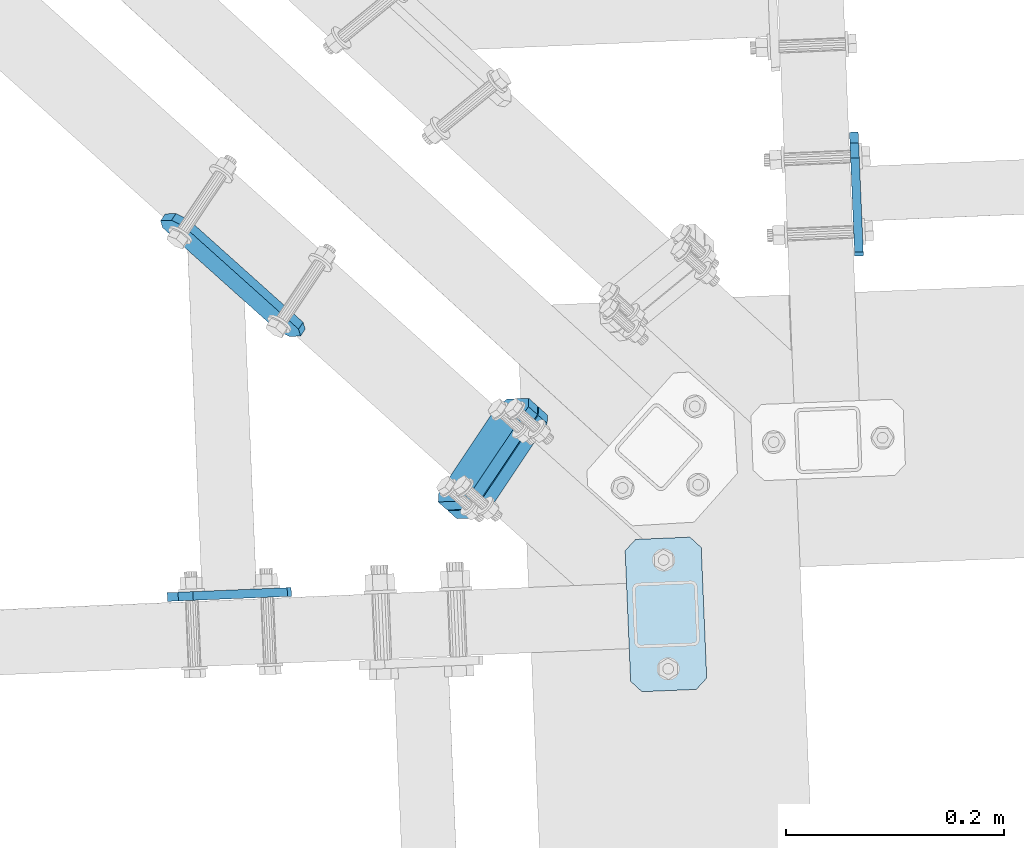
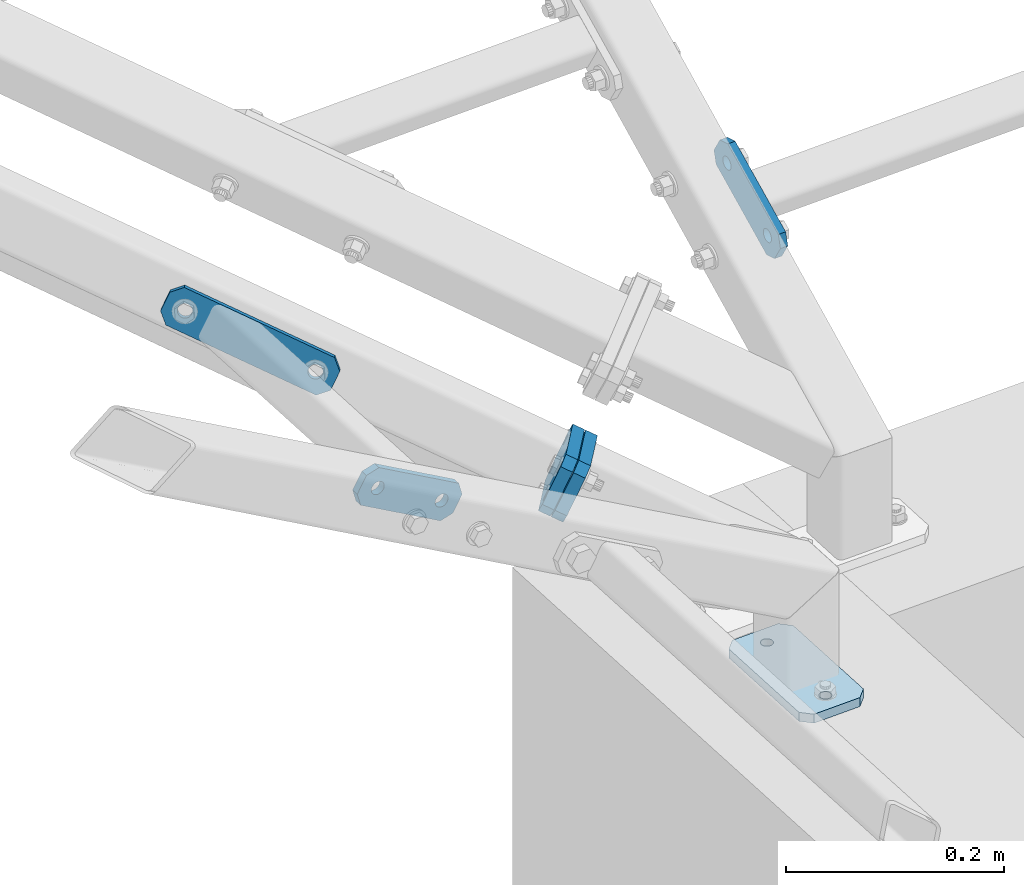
# One storey, part 52 of 288: 6 plates, 40 openings.
"""IFC2X3 building model written with IfcOpenShell, lengths in millimetres."""

import ifcopenshell
import ifcopenshell.guid

model = None  # the IFC model being written
_history = None  # IfcOwnerHistory: only IFC2X3 demands one
_inside = {}  # id of a spatial element -> (the spatial element, [elements in it])
_under = {}  # id of a project, library or spatial element -> (it, [spatial elements below it])
_declared = {}  # id of a project -> (the project, [libraries it declares])
_typed = {}  # id of a type object -> (the type object, [elements of that type])
_made_of = {}  # id of a material, layer set ... -> (it, [elements and type objects made of it])


def new_model(schema):
    """Start an empty IFC model of exactly this schema.

    Asked for "IFC4X3", IfcOpenShell would pick the latest addendum, in which some entities
    have other attributes; the version numbers below select the first issue.
    IFC2X3 requires an IfcOwnerHistory on every rooted entity: one is made here for all.
    """
    global model, _history
    if schema == "IFC4X3":
        model = ifcopenshell.file(schema_version=(4, 3, 0, 0))
    else:
        model = ifcopenshell.file(schema=schema)
    _inside.clear()
    _under.clear()
    _declared.clear()
    _typed.clear()
    _made_of.clear()
    _history = None
    if model.schema == "IFC2X3":
        org = make("IfcOrganization", Name="unknown")
        user = make(
            "IfcPersonAndOrganization",
            ThePerson=make("IfcPerson", FamilyName="unknown"),
            TheOrganization=org,
        )
        app = make(
            "IfcApplication",
            ApplicationDeveloper=org,
            Version="unknown",
            ApplicationFullName="unknown",
            ApplicationIdentifier="unknown",
        )
        _history = make(
            "IfcOwnerHistory",
            OwningUser=user,
            OwningApplication=app,
            ChangeAction="ADDED",
            CreationDate=0,
        )
    return model


def make(cls, **values):
    """One entity of the class cls with the attributes given. An attribute that is None is left unset."""
    return model.create_entity(
        cls, **{name: value for name, value in values.items() if value is not None}
    )


def entity(cls, *values):
    """Any entity or typed value of the class cls, its attributes in the order of the schema. None: left unset."""
    e = model.create_entity(cls)
    for i, value in enumerate(values):
        if value is not None:
            e[i] = value
    return e


def rooted(cls, **values):
    """An entity with a GlobalId (a new one), such as an element, a storey or a relation."""
    return make(cls, GlobalId=ifcopenshell.guid.new(), OwnerHistory=_history, **values)


def si_unit(unit_type, name, prefix=None):
    """IfcSIUnit, for example si_unit("LENGTHUNIT", "METRE", prefix="MILLI")."""
    return make("IfcSIUnit", UnitType=unit_type, Prefix=prefix, Name=name)


def converted_unit(unit_type, name, factor, base, dimensions=None, offset=None):
    """IfcConversionBasedUnit, such as the inch: factor (a typed value) times the base unit."""
    return make(
        "IfcConversionBasedUnit"
        if offset is None
        else "IfcConversionBasedUnitWithOffset",
        ConversionOffset=offset,
        Dimensions=None
        if dimensions is None
        else entity("IfcDimensionalExponents", *dimensions),
        UnitType=unit_type,
        Name=name,
        ConversionFactor=make(
            "IfcMeasureWithUnit", ValueComponent=factor, UnitComponent=base
        ),
    )


def assignment(units):
    """IfcUnitAssignment: the units of a project."""
    return None if units is None else make("IfcUnitAssignment", Units=units)


def point(xyz):
    """IfcCartesianPoint."""
    return None if xyz is None else make("IfcCartesianPoint", Coordinates=xyz)


def direction(xyz):
    """IfcDirection."""
    return None if xyz is None else make("IfcDirection", DirectionRatios=xyz)


def frame(location, z_axis=None, x_axis=None):
    """IfcAxis2Placement3D, a coordinate frame: its origin and axes. An axis left out is left unset."""
    return make(
        "IfcAxis2Placement3D",
        Location=point(location),
        Axis=direction(z_axis),
        RefDirection=direction(x_axis),
    )


def frame_2d(location, x_axis=None):
    """IfcAxis2Placement2D, a coordinate frame in the plane: its origin and x axis."""
    return make(
        "IfcAxis2Placement2D", Location=point(location), RefDirection=direction(x_axis)
    )


def origin():
    """The frame at (0, 0, 0) with its axes left unset."""
    return frame((0.0, 0.0, 0.0))


def origin_with_axes():
    """The frame at (0, 0, 0) with the z axis (0, 0, 1) and the x axis (1, 0, 0) written out."""
    return frame((0.0, 0.0, 0.0), z_axis=(0.0, 0.0, 1.0), x_axis=(1.0, 0.0, 0.0))


def origin_2d_with_axis():
    """The frame at (0, 0) in the plane with the x axis (1, 0) written out."""
    return frame_2d((0.0, 0.0), x_axis=(1.0, 0.0))


def place(relative_to, where):
    """IfcLocalPlacement: puts the frame where relative to a parent placement (None: the world)."""
    return make(
        "IfcLocalPlacement", PlacementRelTo=relative_to, RelativePlacement=where
    )


def context(
    kind, dimensions, precision=None, world=None, true_north=None, identifier=None
):
    """IfcGeometricRepresentationContext, for example the 3D "Model" context."""
    return make(
        "IfcGeometricRepresentationContext",
        ContextIdentifier=identifier,
        ContextType=kind,
        CoordinateSpaceDimension=dimensions,
        Precision=precision,
        WorldCoordinateSystem=world,
        TrueNorth=true_north,
    )


def project(units=None, contexts=None):
    """IfcProject with its units and contexts."""
    return rooted(
        "IfcProject",
        Name="project",
        RepresentationContexts=contexts,
        UnitsInContext=assignment(units),
    )


def spatial(cls, under=None, at=None, **own):
    """A site, building, storey or space (cls), placed at a placement, below another one or the project."""
    s = rooted(cls, ObjectPlacement=at, **own)
    if under is not None:
        _under.setdefault(under.id(), (under, []))[1].append(s)
    return s


def polyline(points):
    """IfcPolyline through the points."""
    return make("IfcPolyline", Points=[point(p) for p in points])


def circle_curve(where, radius):
    """IfcCircle in the frame where."""
    return make("IfcCircle", Position=where, Radius=radius)


def line_curve(start, along, magnitude):
    """IfcLine from a point along a vector."""
    return make(
        "IfcLine",
        Pnt=point(start),
        Dir=make("IfcVector", Orientation=direction(along), Magnitude=magnitude),
    )


def trimmed(basis, trim1, trim2, sense, master):
    """IfcTrimmedCurve: the piece of a basis curve between two trims."""
    return make(
        "IfcTrimmedCurve",
        BasisCurve=basis,
        Trim1=trim1,
        Trim2=trim2,
        SenseAgreement=sense,
        MasterRepresentation=master,
    )


def segment(curve, same_sense, transition):
    """IfcCompositeCurveSegment."""
    return make(
        "IfcCompositeCurveSegment",
        Transition=transition,
        SameSense=same_sense,
        ParentCurve=curve,
    )


def composite_curve(segments, self_intersect=None):
    """IfcCompositeCurve: segments joined end to end."""
    return make("IfcCompositeCurve", Segments=segments, SelfIntersect=self_intersect)


def profile(cls, at=None, kind="AREA", **sizes):
    """A parametric profile (cls). Its sizes go by their IFC names, for example OverallWidth=200.0."""
    return make(cls, ProfileType=kind, Position=at, **sizes)


def circle(**sizes):
    """IfcCircleProfileDef."""
    return profile("IfcCircleProfileDef", **sizes)


def outline(outer, holes=None, kind="AREA"):
    """IfcArbitraryClosedProfileDef: a profile drawn as a closed curve; with holes, ...WithVoids."""
    if holes is None:
        return make("IfcArbitraryClosedProfileDef", ProfileType=kind, OuterCurve=outer)
    return make(
        "IfcArbitraryProfileDefWithVoids",
        ProfileType=kind,
        OuterCurve=outer,
        InnerCurves=holes,
    )


def extrude(swept, where, along, depth):
    """IfcExtrudedAreaSolid: the profile swept, set in the frame where, extruded along a direction by depth."""
    return make(
        "IfcExtrudedAreaSolid",
        SweptArea=swept,
        Position=where,
        ExtrudedDirection=direction(along),
        Depth=depth,
    )


def shape(context_of_items, identifier, shape_type, items):
    """IfcShapeRepresentation: the items that make up one representation, for example the "Body"."""
    return make(
        "IfcShapeRepresentation",
        ContextOfItems=context_of_items,
        RepresentationIdentifier=identifier,
        RepresentationType=shape_type,
        Items=items,
    )


def material(Name=None, Category=None):
    """IfcMaterial."""
    return make("IfcMaterial", Name=Name, Category=Category)


def layer(
    of_material, thickness, ventilated=None, Name=None, Category=None, Priority=None
):
    """IfcMaterialLayer: one layer of a wall or slab, of a material (None: an air gap)."""
    return make(
        "IfcMaterialLayer",
        Material=of_material,
        LayerThickness=thickness,
        IsVentilated=ventilated,
        Name=Name,
        Category=Category,
        Priority=Priority,
    )


def layer_set(layers, Name=None):
    """IfcMaterialLayerSet."""
    return make("IfcMaterialLayerSet", MaterialLayers=layers, LayerSetName=Name)


def made_of(thing, what):
    """Note that an element or type object is made of a material, layer set ...; save() writes the relation."""
    if what is not None:
        _made_of.setdefault(what.id(), (what, []))[1].append(thing)
    return thing


def element(
    cls,
    number,
    at=None,
    inside=None,
    cuts=None,
    type_object=None,
    material=None,
    context=None,
    identifier="Body",
    shape_type=None,
    held_by="IfcProductDefinitionShape",
    body=None,
    shapes=None,
    **own,
):
    """One element of the class cls, such as IfcWall. Its Tag is "e" and its number.

    at: its placement. inside: the storey or other place that contains it. cuts: it is an
    opening in that element (IfcRelVoidsElement). A single representation is given by context,
    identifier, shape_type and body (its items); several are given by shapes. held_by: the class
    of the entity that holds the representations. save() writes the other relations.
    """
    e = rooted(cls, Tag="e%d" % number, ObjectPlacement=at, **own)
    if body is not None:
        shapes = [shape(context, identifier, shape_type, body)]
    if shapes is not None:
        e.Representation = make(held_by, Representations=shapes)
    if inside is not None:
        _inside.setdefault(inside.id(), (inside, []))[1].append(e)
    if cuts is not None:
        rooted(
            "IfcRelVoidsElement", RelatingBuildingElement=cuts, RelatedOpeningElement=e
        )
    if type_object is not None:
        _typed.setdefault(type_object.id(), (type_object, []))[1].append(e)
    return made_of(e, material)


def aggregate(whole, parts):
    """IfcRelAggregates: a whole, such as a stair, and the parts it consists of."""
    return rooted("IfcRelAggregates", RelatingObject=whole, RelatedObjects=parts)


def save(model, path):
    """Write the relations noted so far, then the file.

    IfcRelAggregates (storeys below a building ...), IfcRelContainedInSpatialStructure (elements
    in a storey), IfcRelDefinesByType, IfcRelAssociatesMaterial and IfcRelDeclares: one each for
    every whole, place, type object, material and project.
    """
    for whole, parts in _under.values():
        aggregate(whole, parts)
    for where, things in _inside.values():
        rooted(
            "IfcRelContainedInSpatialStructure",
            RelatedElements=things,
            RelatingStructure=where,
        )
    for kind, things in _typed.values():
        rooted("IfcRelDefinesByType", RelatedObjects=things, RelatingType=kind)
    for what, things in _made_of.values():
        rooted("IfcRelAssociatesMaterial", RelatedObjects=things, RelatingMaterial=what)
    for by, libraries in _declared.values():
        rooted("IfcRelDeclares", RelatingContext=by, RelatedDefinitions=libraries)
    model.write(path)


model = new_model("IFC2X3")

# Units and contexts
model_context = context("Model", 3, precision=1e-09, world=origin_with_axes())
ifc_project = project(units=[si_unit("LENGTHUNIT", "METRE", prefix="MILLI"), si_unit("AREAUNIT", "SQUARE_METRE"), si_unit("VOLUMEUNIT", "CUBIC_METRE"), converted_unit("PLANEANGLEUNIT", "DEGREE", entity("IfcPlaneAngleMeasure", 0.01745329), si_unit("PLANEANGLEUNIT", "RADIAN"), dimensions=[0, 0, 0, 0, 0, 0, 0])], contexts=[model_context])

# Site, building, storey
site_placement = place(None, origin_with_axes())
site = spatial("IfcSite", under=ifc_project, at=site_placement, Name="Remont ?wietlik?w nad MC w NCPP w Opolu", CompositionType="ELEMENT")
building_placement = place(site_placement, origin_with_axes())
building = spatial("IfcBuilding", under=site, at=building_placement, Name="Konstrukcja 1", CompositionType="ELEMENT")
storey_placement = place(building_placement, origin_with_axes())
storey = spatial("IfcBuildingStorey", under=building, at=storey_placement, Name="Default Storey", CompositionType="ELEMENT", Elevation=0.0)

# Plate, openings
ifc_material = material(Name="S235")
ifc_layer_1 = layer(ifc_material, 8.0)
ifc_layer_set_1 = layer_set([ifc_layer_1], Name="S235")
plate_1_placement = place(None, frame((1507.373113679, 13764.887067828, 194.213699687), z_axis=(-0.999102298, -0.042361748, 0.000284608), x_axis=(0.021561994, -0.502733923, 0.864172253)))
plate_1 = element("IfcPlate", 1, at=plate_1_placement, inside=storey, material=ifc_layer_set_1, Name="-", ObjectType="-", context=model_context, shape_type="SweptSolid", body=[
    extrude(outline(polyline([(0.0, 0.0), (40.0, 0.0), (40.0, 120.0), (0.0, 120.0), (0.0, 0.0)])), origin_with_axes(), (0.0, 0.0, 1.0), 8.0),
])
opening_1_placement = place(plate_1_placement, frame((0.0, 0.0, -0.01), z_axis=(0.0, 0.0, 1.0), x_axis=(1.0, 0.0, 0.0)))
element("IfcOpeningElement", 2, at=opening_1_placement, cuts=plate_1, ObjectType="Opening", context=model_context, shape_type="SweptSolid", body=[
    extrude(outline(composite_curve([segment(trimmed(line_curve((0.0, 0.0), (1.0, 0.0), 10.0), [point((0.0, 0.0))], [point((10.0, 0.0))], True, "CARTESIAN"), True, "CONTINUOUS"), segment(trimmed(circle_curve(frame_2d((10.0, 10.0), x_axis=(-1.0, 0.0)), 10.0), [point((10.0, 0.0))], [point((0.0, 10.0))], False, "CARTESIAN"), True, "CONTINUOUS"), segment(trimmed(line_curve((0.0, 10.0), (0.0, -1.0), 10.0), [point((0.0, 10.0))], [point((0.0, 0.0))], True, "CARTESIAN"), True, "CONTINUOUS")], self_intersect=False)), origin(), (0.0, 0.0, 1.0), 8.02),
])
opening_2_placement = place(plate_1_placement, frame((0.0, 0.0, -0.01), z_axis=(0.0, 0.0, 1.0), x_axis=(1.0, 0.0, 0.0)))
element("IfcOpeningElement", 3, at=opening_2_placement, cuts=plate_1, ObjectType="Opening", context=model_context, shape_type="SweptSolid", body=[
    extrude(outline(composite_curve([segment(trimmed(line_curve((40.0, 0.0), (0.0, 1.0), 10.0), [point((40.0, 0.0))], [point((40.0, 10.0))], True, "CARTESIAN"), True, "CONTINUOUS"), segment(trimmed(circle_curve(frame_2d((30.0, 10.0), x_axis=(-1.0, 0.0)), 10.0), [point((40.0, 10.0))], [point((30.0, 0.0))], False, "CARTESIAN"), True, "CONTINUOUS"), segment(trimmed(line_curve((30.0, 0.0), (1.0, 0.0), 10.0), [point((30.0, 0.0))], [point((40.0, 0.0))], True, "CARTESIAN"), True, "CONTINUOUS")], self_intersect=False)), origin(), (0.0, 0.0, 1.0), 8.02),
])
opening_3_placement = place(plate_1_placement, frame((0.0, 0.0, -0.01), z_axis=(0.0, 0.0, 1.0), x_axis=(1.0, 0.0, 0.0)))
element("IfcOpeningElement", 4, at=opening_3_placement, cuts=plate_1, ObjectType="Opening", context=model_context, shape_type="SweptSolid", body=[
    extrude(outline(composite_curve([segment(trimmed(line_curve((40.0, 120.0), (-1.0, 0.0), 10.0), [point((40.0, 120.0))], [point((30.0, 120.0))], True, "CARTESIAN"), True, "CONTINUOUS"), segment(trimmed(circle_curve(frame_2d((30.0, 110.0), x_axis=(-1.0, 0.0)), 10.0), [point((30.0, 120.0))], [point((40.0, 110.0))], False, "CARTESIAN"), True, "CONTINUOUS"), segment(trimmed(line_curve((40.0, 110.0), (0.0, 1.0), 10.0), [point((40.0, 110.0))], [point((40.0, 120.0))], True, "CARTESIAN"), True, "CONTINUOUS")], self_intersect=False)), origin(), (0.0, 0.0, 1.0), 8.02),
])
opening_4_placement = place(plate_1_placement, frame((0.0, 0.0, -0.01), z_axis=(0.0, 0.0, 1.0), x_axis=(1.0, 0.0, 0.0)))
element("IfcOpeningElement", 5, at=opening_4_placement, cuts=plate_1, ObjectType="Opening", context=model_context, shape_type="SweptSolid", body=[
    extrude(outline(composite_curve([segment(trimmed(line_curve((0.0, 120.0), (0.0, -1.0), 10.0), [point((0.0, 120.0))], [point((0.0, 110.0))], True, "CARTESIAN"), True, "CONTINUOUS"), segment(trimmed(circle_curve(frame_2d((10.0, 110.0), x_axis=(-1.0, 0.0)), 10.0), [point((0.0, 110.0))], [point((10.0, 120.0))], False, "CARTESIAN"), True, "CONTINUOUS"), segment(trimmed(line_curve((10.0, 120.0), (-1.0, 0.0), 10.0), [point((10.0, 120.0))], [point((0.0, 120.0))], True, "CARTESIAN"), True, "CONTINUOUS")], self_intersect=False)), origin(), (0.0, 0.0, 1.0), 8.02),
])
opening_5_placement = place(plate_1_placement, frame((12.999, 100.0, 8.5), z_axis=(0.0, 0.0, 1.0), x_axis=(1.0, 0.0, 0.0)))
element("IfcOpeningElement", 6, at=opening_5_placement, cuts=plate_1, ObjectType="Opening", context=model_context, shape_type="SweptSolid", body=[
    extrude(circle(Radius=7.001, at=frame_2d((7.001, 0.0), x_axis=(1.0, 0.0))), origin(), (0.0, 0.0, -1.0), 9.0),
])
opening_6_placement = place(plate_1_placement, frame((12.999, 20.0, 8.5), z_axis=(0.0, 0.0, 1.0), x_axis=(1.0, 0.0, 0.0)))
element("IfcOpeningElement", 7, at=opening_6_placement, cuts=plate_1, ObjectType="Opening", context=model_context, shape_type="SweptSolid", body=[
    extrude(circle(Radius=7.001, at=frame_2d((7.001, 0.0), x_axis=(1.0, 0.0))), origin(), (0.0, 0.0, -1.0), 9.0),
])

plate_2_placement = place(None, frame((863.978979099, 13432.139766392, 349.770319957), z_axis=(-0.041662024, 0.999131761, 1.7472e-05), x_axis=(0.499566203, 0.020815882, 0.866025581)))
plate_2 = element("IfcPlate", 8, at=plate_2_placement, inside=storey, material=ifc_layer_set_1, Name="-", ObjectType="-", context=model_context, shape_type="SweptSolid", body=[
    extrude(outline(polyline([(0.0, 0.0), (40.0, 0.0), (40.0, 120.0), (0.0, 120.0), (0.0, 0.0)])), origin_with_axes(), (0.0, 0.0, 1.0), 8.0),
])
opening_7_placement = place(plate_2_placement, frame((0.0, 0.0, -0.01), z_axis=(0.0, 0.0, 1.0), x_axis=(1.0, 0.0, 0.0)))
element("IfcOpeningElement", 9, at=opening_7_placement, cuts=plate_2, ObjectType="Opening", context=model_context, shape_type="SweptSolid", body=[
    extrude(outline(composite_curve([segment(trimmed(line_curve((40.0, 0.0), (0.0, 1.0), 10.0), [point((40.0, 0.0))], [point((40.0, 10.0))], True, "CARTESIAN"), True, "CONTINUOUS"), segment(trimmed(circle_curve(frame_2d((30.0, 10.0), x_axis=(-1.0, 0.0)), 10.0), [point((40.0, 10.0))], [point((30.0, 0.0))], False, "CARTESIAN"), True, "CONTINUOUS"), segment(trimmed(line_curve((30.0, 0.0), (1.0, 0.0), 10.0), [point((30.0, 0.0))], [point((40.0, 0.0))], True, "CARTESIAN"), True, "CONTINUOUS")], self_intersect=False)), origin(), (0.0, 0.0, 1.0), 8.02),
])
opening_8_placement = place(plate_2_placement, frame((0.0, 0.0, -0.01), z_axis=(0.0, 0.0, 1.0), x_axis=(1.0, 0.0, 0.0)))
element("IfcOpeningElement", 10, at=opening_8_placement, cuts=plate_2, ObjectType="Opening", context=model_context, shape_type="SweptSolid", body=[
    extrude(outline(composite_curve([segment(trimmed(line_curve((0.0, 0.0), (1.0, 0.0), 10.0), [point((0.0, 0.0))], [point((10.0, 0.0))], True, "CARTESIAN"), True, "CONTINUOUS"), segment(trimmed(circle_curve(frame_2d((10.0, 10.0), x_axis=(-1.0, 0.0)), 10.0), [point((10.0, 0.0))], [point((0.0, 10.0))], False, "CARTESIAN"), True, "CONTINUOUS"), segment(trimmed(line_curve((0.0, 10.0), (0.0, -1.0), 10.0), [point((0.0, 10.0))], [point((0.0, 0.0))], True, "CARTESIAN"), True, "CONTINUOUS")], self_intersect=False)), origin(), (0.0, 0.0, 1.0), 8.02),
])
opening_9_placement = place(plate_2_placement, frame((0.0, 0.0, -0.01), z_axis=(0.0, 0.0, 1.0), x_axis=(1.0, 0.0, 0.0)))
element("IfcOpeningElement", 11, at=opening_9_placement, cuts=plate_2, ObjectType="Opening", context=model_context, shape_type="SweptSolid", body=[
    extrude(outline(composite_curve([segment(trimmed(line_curve((40.0, 120.0), (-1.0, 0.0), 10.0), [point((40.0, 120.0))], [point((30.0, 120.0))], True, "CARTESIAN"), True, "CONTINUOUS"), segment(trimmed(circle_curve(frame_2d((30.0, 110.0), x_axis=(-1.0, 0.0)), 10.0), [point((30.0, 120.0))], [point((40.0, 110.0))], False, "CARTESIAN"), True, "CONTINUOUS"), segment(trimmed(line_curve((40.0, 110.0), (0.0, 1.0), 10.0), [point((40.0, 110.0))], [point((40.0, 120.0))], True, "CARTESIAN"), True, "CONTINUOUS")], self_intersect=False)), origin(), (0.0, 0.0, 1.0), 8.02),
])
opening_10_placement = place(plate_2_placement, frame((0.0, 0.0, -0.01), z_axis=(0.0, 0.0, 1.0), x_axis=(1.0, 0.0, 0.0)))
element("IfcOpeningElement", 12, at=opening_10_placement, cuts=plate_2, ObjectType="Opening", context=model_context, shape_type="SweptSolid", body=[
    extrude(outline(composite_curve([segment(trimmed(line_curve((0.0, 120.0), (0.0, -1.0), 10.0), [point((0.0, 120.0))], [point((0.0, 110.0))], True, "CARTESIAN"), True, "CONTINUOUS"), segment(trimmed(circle_curve(frame_2d((10.0, 110.0), x_axis=(-1.0, 0.0)), 10.0), [point((0.0, 110.0))], [point((10.0, 120.0))], False, "CARTESIAN"), True, "CONTINUOUS"), segment(trimmed(line_curve((10.0, 120.0), (-1.0, 0.0), 10.0), [point((10.0, 120.0))], [point((0.0, 120.0))], True, "CARTESIAN"), True, "CONTINUOUS")], self_intersect=False)), origin(), (0.0, 0.0, 1.0), 8.02),
])
opening_11_placement = place(plate_2_placement, frame((19.99842578, 27.001033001, 8.499903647), z_axis=(-2.0054e-05, 4.2e-07, 1.0), x_axis=(1.0, 0.0, 2.0054e-05)))
element("IfcOpeningElement", 13, at=opening_11_placement, cuts=plate_2, ObjectType="Opening", context=model_context, shape_type="SweptSolid", body=[
    extrude(circle(Radius=7.001, at=frame_2d((-4e-09, -7.001), x_axis=(1.0, 0.0))), origin(), (0.0, 0.0, -1.0), 9.000033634),
])
opening_12_placement = place(plate_2_placement, frame((19.998425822, 107.001033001, 8.499870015), z_axis=(-2.0054e-05, 4.2e-07, 1.0), x_axis=(1.0, 0.0, 2.0054e-05)))
element("IfcOpeningElement", 14, at=opening_12_placement, cuts=plate_2, ObjectType="Opening", context=model_context, shape_type="SweptSolid", body=[
    extrude(circle(Radius=7.001, at=frame_2d((-4e-09, -7.001), x_axis=(1.0, 0.0))), origin(), (0.0, 0.0, -1.0), 9.000033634),
])

ifc_layer_2 = layer(ifc_material, 10.0)
ifc_layer_set_2 = layer_set([ifc_layer_2], Name="S235")
plate_3_placement = place(None, frame((1288.768504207, 13488.889139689, 10.000000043), z_axis=(0.0, 0.0, -1.0), x_axis=(0.999131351, 0.041671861, 0.0)))
plate_3 = element("IfcPlate", 15, at=plate_3_placement, inside=storey, material=ifc_layer_set_2, Name="Baseplate", ObjectType="Baseplate", context=model_context, shape_type="SweptSolid", body=[
    extrude(outline(polyline([(0.0, 0.0), (70.0, 0.0), (70.0, 140.0), (0.0, 140.0), (0.0, 0.0)])), origin_with_axes(), (0.0, 0.0, 1.0), 10.0),
])
opening_13_placement = place(plate_3_placement, frame((0.0, 0.0, -0.01), z_axis=(0.0, 0.0, 1.0), x_axis=(1.0, 0.0, 0.0)))
element("IfcOpeningElement", 16, at=opening_13_placement, cuts=plate_3, ObjectType="Opening", context=model_context, shape_type="SweptSolid", body=[
    extrude(outline(composite_curve([segment(trimmed(line_curve((0.0, 140.0), (0.0, -1.0), 10.0), [point((0.0, 140.0))], [point((0.0, 130.0))], True, "CARTESIAN"), True, "CONTINUOUS"), segment(trimmed(circle_curve(frame_2d((10.0, 130.0), x_axis=(-1.0, 0.0)), 10.0), [point((0.0, 130.0))], [point((10.0, 140.0))], False, "CARTESIAN"), True, "CONTINUOUS"), segment(trimmed(line_curve((10.0, 140.0), (-1.0, 0.0), 10.0), [point((10.0, 140.0))], [point((0.0, 140.0))], True, "CARTESIAN"), True, "CONTINUOUS")], self_intersect=False)), origin(), (0.0, 0.0, 1.0), 10.02),
])
opening_14_placement = place(plate_3_placement, frame((0.0, 0.0, -0.01), z_axis=(0.0, 0.0, 1.0), x_axis=(1.0, 0.0, 0.0)))
element("IfcOpeningElement", 17, at=opening_14_placement, cuts=plate_3, ObjectType="Opening", context=model_context, shape_type="SweptSolid", body=[
    extrude(outline(composite_curve([segment(trimmed(line_curve((70.0, 140.0), (-1.0, 0.0), 10.0), [point((70.0, 140.0))], [point((60.0, 140.0))], True, "CARTESIAN"), True, "CONTINUOUS"), segment(trimmed(circle_curve(frame_2d((60.0, 130.0), x_axis=(-1.0, 0.0)), 10.0), [point((60.0, 140.0))], [point((70.0, 130.0))], False, "CARTESIAN"), True, "CONTINUOUS"), segment(trimmed(line_curve((70.0, 130.0), (0.0, 1.0), 10.0), [point((70.0, 130.0))], [point((70.0, 140.0))], True, "CARTESIAN"), True, "CONTINUOUS")], self_intersect=False)), origin(), (0.0, 0.0, 1.0), 10.02),
])
opening_15_placement = place(plate_3_placement, frame((0.0, 0.0, -0.01), z_axis=(0.0, 0.0, 1.0), x_axis=(1.0, 0.0, 0.0)))
element("IfcOpeningElement", 18, at=opening_15_placement, cuts=plate_3, ObjectType="Opening", context=model_context, shape_type="SweptSolid", body=[
    extrude(outline(composite_curve([segment(trimmed(line_curve((0.0, 0.0), (1.0, 0.0), 10.0), [point((0.0, 0.0))], [point((10.0, 0.0))], True, "CARTESIAN"), True, "CONTINUOUS"), segment(trimmed(circle_curve(frame_2d((10.0, 10.0), x_axis=(-1.0, 0.0)), 10.0), [point((10.0, 0.0))], [point((0.0, 10.0))], False, "CARTESIAN"), True, "CONTINUOUS"), segment(trimmed(line_curve((0.0, 10.0), (0.0, -1.0), 10.0), [point((0.0, 10.0))], [point((0.0, 0.0))], True, "CARTESIAN"), True, "CONTINUOUS")], self_intersect=False)), origin(), (0.0, 0.0, 1.0), 10.02),
])
opening_16_placement = place(plate_3_placement, frame((0.0, 0.0, -0.01), z_axis=(0.0, 0.0, 1.0), x_axis=(1.0, 0.0, 0.0)))
element("IfcOpeningElement", 19, at=opening_16_placement, cuts=plate_3, ObjectType="Opening", context=model_context, shape_type="SweptSolid", body=[
    extrude(outline(composite_curve([segment(trimmed(line_curve((70.0, 0.0), (0.0, 1.0), 10.0), [point((70.0, 0.0))], [point((70.0, 10.0))], True, "CARTESIAN"), True, "CONTINUOUS"), segment(trimmed(circle_curve(frame_2d((60.0, 10.0), x_axis=(-1.0, 0.0)), 10.0), [point((70.0, 10.0))], [point((60.0, 0.0))], False, "CARTESIAN"), True, "CONTINUOUS"), segment(trimmed(line_curve((60.0, 0.0), (1.0, 0.0), 10.0), [point((60.0, 0.0))], [point((70.0, 0.0))], True, "CARTESIAN"), True, "CONTINUOUS")], self_intersect=False)), origin(), (0.0, 0.0, 1.0), 10.02),
])
opening_17_placement = place(plate_3_placement, frame((35.0, 20.0, 10.5), z_axis=(0.0, 0.0, -1.0), x_axis=(1.0, 0.0, 0.0)))
element("IfcOpeningElement", 20, at=opening_17_placement, cuts=plate_3, ObjectType="Opening", context=model_context, shape_type="SweptSolid", body=[
    extrude(circle(Radius=6.001, at=origin_2d_with_axis()), origin(), (0.0, 0.0, 1.0), 11.0),
])
opening_18_placement = place(plate_3_placement, frame((35.0, 120.0, 10.5), z_axis=(0.0, 0.0, -1.0), x_axis=(1.0, 0.0, 0.0)))
element("IfcOpeningElement", 21, at=opening_18_placement, cuts=plate_3, ObjectType="Opening", context=model_context, shape_type="SweptSolid", body=[
    extrude(circle(Radius=6.001, at=origin_2d_with_axis()), origin(), (0.0, 0.0, 1.0), 11.0),
])

ifc_layer_3 = layer(ifc_material, 12.0)
ifc_layer_set_3 = layer_set([ifc_layer_3], Name="S235")
plate_4_placement = place(None, frame((1151.470383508, 13516.68097276, 243.04759527), z_axis=(0.688159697, -0.616779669, -0.382124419), x_axis=(-0.499565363, -0.020836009, -0.866025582)))
plate_4 = element("IfcPlate", 22, at=plate_4_placement, inside=storey, material=ifc_layer_set_3, Name="Endplate#1", ObjectType="Endplate#1", context=model_context, shape_type="SweptSolid", body=[
    extrude(outline(polyline([(0.0, 0.0), (60.0, 0.0), (60.0, 120.0), (0.0, 120.0), (0.0, 0.0)])), origin_with_axes(), (0.0, 0.0, 1.0), 12.0),
])
opening_19_placement = place(plate_4_placement, frame((15.0, 60.0, 12.5), z_axis=(0.0, 0.0, -1.0), x_axis=(1.0, 0.0, 0.0)))
element("IfcOpeningElement", 23, at=opening_19_placement, cuts=plate_4, ObjectType="Opening", context=model_context, shape_type="SweptSolid", body=[
    extrude(circle(Radius=6.001, at=frame_2d((0.0, 45.0), x_axis=(1.0, 0.0))), origin(), (0.0, 0.0, 1.0), 13.0),
])
opening_20_placement = place(plate_4_placement, frame((15.0, 60.0, 12.5), z_axis=(0.0, 0.0, -1.0), x_axis=(1.0, 0.0, 0.0)))
element("IfcOpeningElement", 24, at=opening_20_placement, cuts=plate_4, ObjectType="Opening", context=model_context, shape_type="SweptSolid", body=[
    extrude(circle(Radius=6.001, at=frame_2d((0.0, -45.0), x_axis=(1.0, 0.0))), origin(), (0.0, 0.0, 1.0), 13.0),
])
opening_21_placement = place(plate_4_placement, frame((45.0, 60.0, 12.5), z_axis=(0.0, 0.0, -1.0), x_axis=(1.0, 0.0, 0.0)))
element("IfcOpeningElement", 25, at=opening_21_placement, cuts=plate_4, ObjectType="Opening", context=model_context, shape_type="SweptSolid", body=[
    extrude(circle(Radius=6.001, at=frame_2d((0.0, 45.0), x_axis=(1.0, 0.0))), origin(), (0.0, 0.0, 1.0), 13.0),
])
opening_22_placement = place(plate_4_placement, frame((45.0, 60.0, 12.5), z_axis=(0.0, 0.0, -1.0), x_axis=(1.0, 0.0, 0.0)))
element("IfcOpeningElement", 26, at=opening_22_placement, cuts=plate_4, ObjectType="Opening", context=model_context, shape_type="SweptSolid", body=[
    extrude(circle(Radius=6.001, at=frame_2d((0.0, -45.0), x_axis=(1.0, 0.0))), origin(), (0.0, 0.0, 1.0), 13.0),
])
opening_23_placement = place(plate_4_placement, frame((0.0, 0.0, -0.01), z_axis=(0.0, 0.0, 1.0), x_axis=(1.0, 0.0, 0.0)))
element("IfcOpeningElement", 27, at=opening_23_placement, cuts=plate_4, ObjectType="Opening", context=model_context, shape_type="SweptSolid", body=[
    extrude(outline(composite_curve([segment(trimmed(line_curve((0.0, 120.0), (0.0, -1.0), 10.0), [point((0.0, 120.0))], [point((0.0, 110.0))], True, "CARTESIAN"), True, "CONTINUOUS"), segment(trimmed(circle_curve(frame_2d((10.0, 110.0), x_axis=(-1.0, 0.0)), 10.0), [point((0.0, 110.0))], [point((10.0, 120.0))], False, "CARTESIAN"), True, "CONTINUOUS"), segment(trimmed(line_curve((10.0, 120.0), (-1.0, 0.0), 10.0), [point((10.0, 120.0))], [point((0.0, 120.0))], True, "CARTESIAN"), True, "CONTINUOUS")], self_intersect=False)), origin(), (0.0, 0.0, 1.0), 12.02),
])
opening_24_placement = place(plate_4_placement, frame((0.0, 0.0, -0.01), z_axis=(0.0, 0.0, 1.0), x_axis=(1.0, 0.0, 0.0)))
element("IfcOpeningElement", 28, at=opening_24_placement, cuts=plate_4, ObjectType="Opening", context=model_context, shape_type="SweptSolid", body=[
    extrude(outline(composite_curve([segment(trimmed(line_curve((0.0, 0.0), (1.0, 0.0), 10.0), [point((0.0, 0.0))], [point((10.0, 0.0))], True, "CARTESIAN"), True, "CONTINUOUS"), segment(trimmed(circle_curve(frame_2d((10.0, 10.0), x_axis=(-1.0, 0.0)), 10.0), [point((10.0, 0.0))], [point((0.0, 10.0))], False, "CARTESIAN"), True, "CONTINUOUS"), segment(trimmed(line_curve((0.0, 10.0), (0.0, -1.0), 10.0), [point((0.0, 10.0))], [point((0.0, 0.0))], True, "CARTESIAN"), True, "CONTINUOUS")], self_intersect=False)), origin(), (0.0, 0.0, 1.0), 12.02),
])
opening_25_placement = place(plate_4_placement, frame((0.0, 0.0, -0.01), z_axis=(0.0, 0.0, 1.0), x_axis=(1.0, 0.0, 0.0)))
element("IfcOpeningElement", 29, at=opening_25_placement, cuts=plate_4, ObjectType="Opening", context=model_context, shape_type="SweptSolid", body=[
    extrude(outline(composite_curve([segment(trimmed(line_curve((60.0, 0.0), (0.0, 1.0), 10.0), [point((60.0, 0.0))], [point((60.0, 10.0))], True, "CARTESIAN"), True, "CONTINUOUS"), segment(trimmed(circle_curve(frame_2d((50.0, 10.0), x_axis=(-1.0, 0.0)), 10.0), [point((60.0, 10.0))], [point((50.0, 0.0))], False, "CARTESIAN"), True, "CONTINUOUS"), segment(trimmed(line_curve((50.0, 0.0), (1.0, 0.0), 10.0), [point((50.0, 0.0))], [point((60.0, 0.0))], True, "CARTESIAN"), True, "CONTINUOUS")], self_intersect=False)), origin(), (0.0, 0.0, 1.0), 12.02),
])
opening_26_placement = place(plate_4_placement, frame((0.0, 0.0, -0.01), z_axis=(0.0, 0.0, 1.0), x_axis=(1.0, 0.0, 0.0)))
element("IfcOpeningElement", 30, at=opening_26_placement, cuts=plate_4, ObjectType="Opening", context=model_context, shape_type="SweptSolid", body=[
    extrude(outline(composite_curve([segment(trimmed(line_curve((60.0, 120.0), (-1.0, 0.0), 10.0), [point((60.0, 120.0))], [point((50.0, 120.0))], True, "CARTESIAN"), True, "CONTINUOUS"), segment(trimmed(circle_curve(frame_2d((50.0, 110.0), x_axis=(-1.0, 0.0)), 10.0), [point((50.0, 120.0))], [point((60.0, 110.0))], False, "CARTESIAN"), True, "CONTINUOUS"), segment(trimmed(line_curve((60.0, 110.0), (0.0, 1.0), 10.0), [point((60.0, 110.0))], [point((60.0, 120.0))], True, "CARTESIAN"), True, "CONTINUOUS")], self_intersect=False)), origin(), (0.0, 0.0, 1.0), 12.02),
])

plate_5_placement = place(None, frame((1142.524307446, 13524.699108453, 248.015212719), z_axis=(0.688159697, -0.616779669, -0.382124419), x_axis=(-0.499565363, -0.020836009, -0.866025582)))
plate_5 = element("IfcPlate", 31, at=plate_5_placement, inside=storey, material=ifc_layer_set_3, Name="Endplate#2", ObjectType="Endplate#2", context=model_context, shape_type="SweptSolid", body=[
    extrude(outline(polyline([(0.0, 0.0), (60.0, 0.0), (60.0, 120.0), (0.0, 120.0), (0.0, 0.0)])), origin_with_axes(), (0.0, 0.0, 1.0), 12.0),
])
opening_27_placement = place(plate_5_placement, frame((45.0, 60.0, 12.5), z_axis=(0.0, 0.0, -1.0), x_axis=(1.0, 0.0, 0.0)))
element("IfcOpeningElement", 32, at=opening_27_placement, cuts=plate_5, ObjectType="Opening", context=model_context, shape_type="SweptSolid", body=[
    extrude(circle(Radius=6.001, at=frame_2d((0.0, 45.0), x_axis=(1.0, 0.0))), origin(), (0.0, 0.0, 1.0), 13.0),
])
opening_28_placement = place(plate_5_placement, frame((45.0, 60.0, 12.5), z_axis=(0.0, 0.0, -1.0), x_axis=(1.0, 0.0, 0.0)))
element("IfcOpeningElement", 33, at=opening_28_placement, cuts=plate_5, ObjectType="Opening", context=model_context, shape_type="SweptSolid", body=[
    extrude(circle(Radius=6.001, at=frame_2d((0.0, -45.0), x_axis=(1.0, 0.0))), origin(), (0.0, 0.0, 1.0), 13.0),
])
opening_29_placement = place(plate_5_placement, frame((15.0, 60.0, 12.5), z_axis=(0.0, 0.0, -1.0), x_axis=(1.0, 0.0, 0.0)))
element("IfcOpeningElement", 34, at=opening_29_placement, cuts=plate_5, ObjectType="Opening", context=model_context, shape_type="SweptSolid", body=[
    extrude(circle(Radius=6.001, at=frame_2d((0.0, 45.0), x_axis=(1.0, 0.0))), origin(), (0.0, 0.0, 1.0), 13.0),
])
opening_30_placement = place(plate_5_placement, frame((15.0, 60.0, 12.5), z_axis=(0.0, 0.0, -1.0), x_axis=(1.0, 0.0, 0.0)))
element("IfcOpeningElement", 35, at=opening_30_placement, cuts=plate_5, ObjectType="Opening", context=model_context, shape_type="SweptSolid", body=[
    extrude(circle(Radius=6.001, at=frame_2d((0.0, -45.0), x_axis=(1.0, 0.0))), origin(), (0.0, 0.0, 1.0), 13.0),
])
opening_31_placement = place(plate_5_placement, frame((0.0, 0.0, -0.01), z_axis=(0.0, 0.0, 1.0), x_axis=(1.0, 0.0, 0.0)))
element("IfcOpeningElement", 36, at=opening_31_placement, cuts=plate_5, ObjectType="Opening", context=model_context, shape_type="SweptSolid", body=[
    extrude(outline(composite_curve([segment(trimmed(line_curve((0.0, 120.0), (0.0, -1.0), 10.0), [point((0.0, 120.0))], [point((0.0, 110.0))], True, "CARTESIAN"), True, "CONTINUOUS"), segment(trimmed(circle_curve(frame_2d((10.0, 110.0), x_axis=(-1.0, 0.0)), 10.0), [point((0.0, 110.0))], [point((10.0, 120.0))], False, "CARTESIAN"), True, "CONTINUOUS"), segment(trimmed(line_curve((10.0, 120.0), (-1.0, 0.0), 10.0), [point((10.0, 120.0))], [point((0.0, 120.0))], True, "CARTESIAN"), True, "CONTINUOUS")], self_intersect=False)), origin(), (0.0, 0.0, 1.0), 12.02),
])
opening_32_placement = place(plate_5_placement, frame((0.0, 0.0, -0.01), z_axis=(0.0, 0.0, 1.0), x_axis=(1.0, 0.0, 0.0)))
element("IfcOpeningElement", 37, at=opening_32_placement, cuts=plate_5, ObjectType="Opening", context=model_context, shape_type="SweptSolid", body=[
    extrude(outline(composite_curve([segment(trimmed(line_curve((0.0, 0.0), (1.0, 0.0), 10.0), [point((0.0, 0.0))], [point((10.0, 0.0))], True, "CARTESIAN"), True, "CONTINUOUS"), segment(trimmed(circle_curve(frame_2d((10.0, 10.0), x_axis=(-1.0, 0.0)), 10.0), [point((10.0, 0.0))], [point((0.0, 10.0))], False, "CARTESIAN"), True, "CONTINUOUS"), segment(trimmed(line_curve((0.0, 10.0), (0.0, -1.0), 10.0), [point((0.0, 10.0))], [point((0.0, 0.0))], True, "CARTESIAN"), True, "CONTINUOUS")], self_intersect=False)), origin(), (0.0, 0.0, 1.0), 12.02),
])
opening_33_placement = place(plate_5_placement, frame((0.0, 0.0, -0.01), z_axis=(0.0, 0.0, 1.0), x_axis=(1.0, 0.0, 0.0)))
element("IfcOpeningElement", 38, at=opening_33_placement, cuts=plate_5, ObjectType="Opening", context=model_context, shape_type="SweptSolid", body=[
    extrude(outline(composite_curve([segment(trimmed(line_curve((60.0, 0.0), (0.0, 1.0), 10.0), [point((60.0, 0.0))], [point((60.0, 10.0))], True, "CARTESIAN"), True, "CONTINUOUS"), segment(trimmed(circle_curve(frame_2d((50.0, 10.0), x_axis=(-1.0, 0.0)), 10.0), [point((60.0, 10.0))], [point((50.0, 0.0))], False, "CARTESIAN"), True, "CONTINUOUS"), segment(trimmed(line_curve((50.0, 0.0), (1.0, 0.0), 10.0), [point((50.0, 0.0))], [point((60.0, 0.0))], True, "CARTESIAN"), True, "CONTINUOUS")], self_intersect=False)), origin(), (0.0, 0.0, 1.0), 12.02),
])
opening_34_placement = place(plate_5_placement, frame((0.0, 0.0, -0.01), z_axis=(0.0, 0.0, 1.0), x_axis=(1.0, 0.0, 0.0)))
element("IfcOpeningElement", 39, at=opening_34_placement, cuts=plate_5, ObjectType="Opening", context=model_context, shape_type="SweptSolid", body=[
    extrude(outline(composite_curve([segment(trimmed(line_curve((60.0, 120.0), (-1.0, 0.0), 10.0), [point((60.0, 120.0))], [point((50.0, 120.0))], True, "CARTESIAN"), True, "CONTINUOUS"), segment(trimmed(circle_curve(frame_2d((50.0, 110.0), x_axis=(-1.0, 0.0)), 10.0), [point((50.0, 120.0))], [point((60.0, 110.0))], False, "CARTESIAN"), True, "CONTINUOUS"), segment(trimmed(line_curve((60.0, 110.0), (0.0, 1.0), 10.0), [point((60.0, 110.0))], [point((60.0, 120.0))], True, "CARTESIAN"), True, "CONTINUOUS")], self_intersect=False)), origin(), (0.0, 0.0, 1.0), 12.02),
])

plate_6_placement = place(None, frame((857.586101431, 13781.7056177, 345.078124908), z_axis=(0.526185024, 0.786860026, -0.322460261), x_axis=(0.499565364, 0.020836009, 0.866025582)))
plate_6 = element("IfcPlate", 40, at=plate_6_placement, inside=storey, material=ifc_layer_set_1, Name="-", ObjectType="-", context=model_context, shape_type="SweptSolid", body=[
    extrude(outline(polyline([(0.0, 0.0), (39.99932107, 0.0), (39.99932107, 172.338943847), (0.0, 172.338943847), (0.0, 0.0)])), origin_with_axes(), (0.0, 0.0, 1.0), 8.0),
])
opening_35_placement = place(plate_6_placement, frame((12.998830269, 20.0, 8.5), z_axis=(0.0, 0.0, 1.0), x_axis=(1.0, 0.0, 0.0)))
element("IfcOpeningElement", 41, at=opening_35_placement, cuts=plate_6, ObjectType="Opening", context=model_context, shape_type="SweptSolid", body=[
    extrude(circle(Radius=7.001, at=frame_2d((7.001, 0.0), x_axis=(1.0, 0.0))), origin(), (0.0, 0.0, -1.0), 9.0),
])
opening_36_placement = place(plate_6_placement, frame((12.9984908, 152.338943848, 8.5), z_axis=(0.0, 0.0, 1.0), x_axis=(1.0, 0.0, 0.0)))
element("IfcOpeningElement", 42, at=opening_36_placement, cuts=plate_6, ObjectType="Opening", context=model_context, shape_type="SweptSolid", body=[
    extrude(circle(Radius=7.001, at=frame_2d((7.001, 0.0), x_axis=(1.0, 0.0))), origin(), (0.0, 0.0, -1.0), 9.0),
])
opening_37_placement = place(plate_6_placement, frame((0.0, 0.0, -0.01), z_axis=(0.0, 0.0, 1.0), x_axis=(1.0, 0.0, 0.0)))
element("IfcOpeningElement", 43, at=opening_37_placement, cuts=plate_6, ObjectType="Opening", context=model_context, shape_type="SweptSolid", body=[
    extrude(outline(composite_curve([segment(trimmed(line_curve((39.99932107, 0.0), (0.0, 1.0), 10.0), [point((39.99932107, 0.0))], [point((39.99932107, 10.0))], True, "CARTESIAN"), True, "CONTINUOUS"), segment(trimmed(circle_curve(frame_2d((29.99932107, 10.0), x_axis=(-1.0, 0.0)), 10.0), [point((39.99932107, 10.0))], [point((29.99932107, 0.0))], False, "CARTESIAN"), True, "CONTINUOUS"), segment(trimmed(line_curve((29.99932107, 0.0), (1.0, 0.0), 10.0), [point((29.99932107, 0.0))], [point((39.99932107, 0.0))], True, "CARTESIAN"), True, "CONTINUOUS")], self_intersect=False)), origin(), (0.0, 0.0, 1.0), 8.02),
])
opening_38_placement = place(plate_6_placement, frame((0.0, 0.0, -0.01), z_axis=(0.0, 0.0, 1.0), x_axis=(1.0, 0.0, 0.0)))
element("IfcOpeningElement", 44, at=opening_38_placement, cuts=plate_6, ObjectType="Opening", context=model_context, shape_type="SweptSolid", body=[
    extrude(outline(composite_curve([segment(trimmed(line_curve((0.0, 0.0), (1.0, 0.0), 10.0), [point((0.0, 0.0))], [point((10.0, 0.0))], True, "CARTESIAN"), True, "CONTINUOUS"), segment(trimmed(circle_curve(frame_2d((10.0, 10.0), x_axis=(-1.0, 0.0)), 10.0), [point((10.0, 0.0))], [point((0.0, 10.0))], False, "CARTESIAN"), True, "CONTINUOUS"), segment(trimmed(line_curve((0.0, 10.0), (0.0, -1.0), 10.0), [point((0.0, 10.0))], [point((0.0, 0.0))], True, "CARTESIAN"), True, "CONTINUOUS")], self_intersect=False)), origin(), (0.0, 0.0, 1.0), 8.02),
])
opening_39_placement = place(plate_6_placement, frame((0.0, 0.0, -0.01), z_axis=(0.0, 0.0, 1.0), x_axis=(1.0, 0.0, 0.0)))
element("IfcOpeningElement", 45, at=opening_39_placement, cuts=plate_6, ObjectType="Opening", context=model_context, shape_type="SweptSolid", body=[
    extrude(outline(composite_curve([segment(trimmed(line_curve((39.99932107, 172.338943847), (-1.0, 0.0), 10.0), [point((39.99932107, 172.338943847))], [point((29.99932107, 172.338943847))], True, "CARTESIAN"), True, "CONTINUOUS"), segment(trimmed(circle_curve(frame_2d((29.99932107, 162.338943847), x_axis=(-1.0, 0.0)), 10.0), [point((29.99932107, 172.338943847))], [point((39.99932107, 162.338943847))], False, "CARTESIAN"), True, "CONTINUOUS"), segment(trimmed(line_curve((39.99932107, 162.338943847), (0.0, 1.0), 10.0), [point((39.99932107, 162.338943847))], [point((39.99932107, 172.338943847))], True, "CARTESIAN"), True, "CONTINUOUS")], self_intersect=False)), origin(), (0.0, 0.0, 1.0), 8.02),
])
opening_40_placement = place(plate_6_placement, frame((0.0, 0.0, -0.01), z_axis=(0.0, 0.0, 1.0), x_axis=(1.0, 0.0, 0.0)))
element("IfcOpeningElement", 46, at=opening_40_placement, cuts=plate_6, ObjectType="Opening", context=model_context, shape_type="SweptSolid", body=[
    extrude(outline(composite_curve([segment(trimmed(line_curve((0.0, 172.338943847), (0.0, -1.0), 10.0), [point((0.0, 172.338943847))], [point((0.0, 162.338943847))], True, "CARTESIAN"), True, "CONTINUOUS"), segment(trimmed(circle_curve(frame_2d((10.0, 162.338943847), x_axis=(-1.0, 0.0)), 10.0), [point((0.0, 162.338943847))], [point((10.0, 172.338943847))], False, "CARTESIAN"), True, "CONTINUOUS"), segment(trimmed(line_curve((10.0, 172.338943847), (-1.0, 0.0), 10.0), [point((10.0, 172.338943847))], [point((0.0, 172.338943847))], True, "CARTESIAN"), True, "CONTINUOUS")], self_intersect=False)), origin(), (0.0, 0.0, 1.0), 8.02),
])

save(model, "model.ifc")
